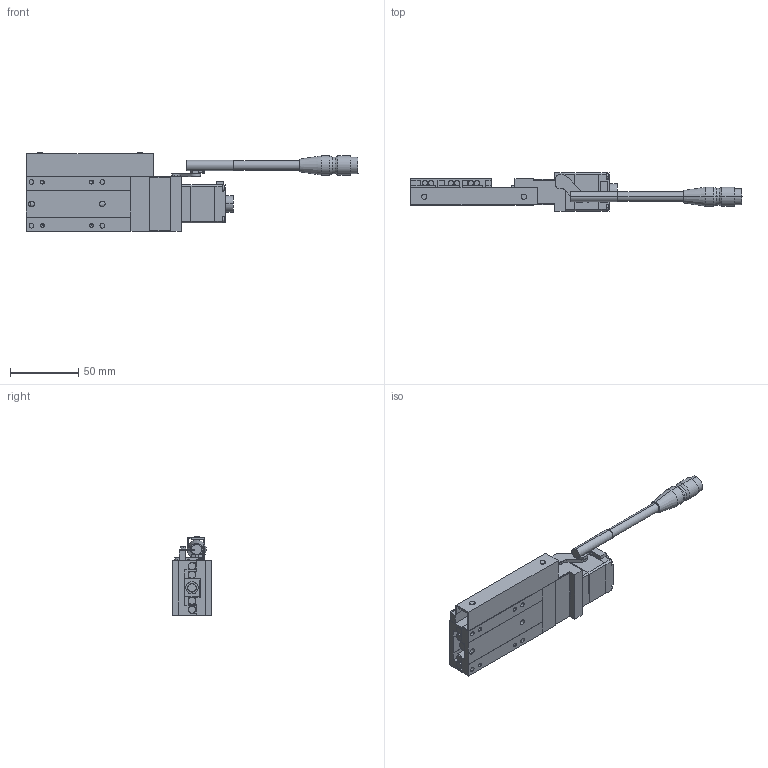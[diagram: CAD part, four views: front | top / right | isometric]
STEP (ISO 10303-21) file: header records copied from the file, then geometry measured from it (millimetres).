
FILE_DESCRIPTION(('STEP AP203'),'1');
FILE_NAME('C:/3D-Trans/3D_PG430T-L□-T+240116.step','2024-02-26T08:47:12',(' '),(' '),'Spatial InterOp 3D',' ',' ');
FILE_SCHEMA(('CONFIG_CONTROL_DESIGN'));
Length unit declared in the file: millimetre
Products named in the file (6): 1; 2; 3; 4; 5; 6
Bounding box: 243.5 x 28 x 57.4 mm (x, y, z)
Volume: 106043.6 mm3; surface area: 50857.9 mm2
Topology: 6 solids, 6 shells, 560 faces, 1400 edges, 880 vertices
Faces by surface type: plane 334, cylinder 172, cone 54
Entity records: 16772 total; most frequent: DIRECTION 2940, CARTESIAN_POINT 2832, ORIENTED_EDGE 2760, EDGE_CURVE 1380, AXIS2_PLACEMENT_3D 996, LINE 948, VECTOR 948, VERTEX_POINT 880
